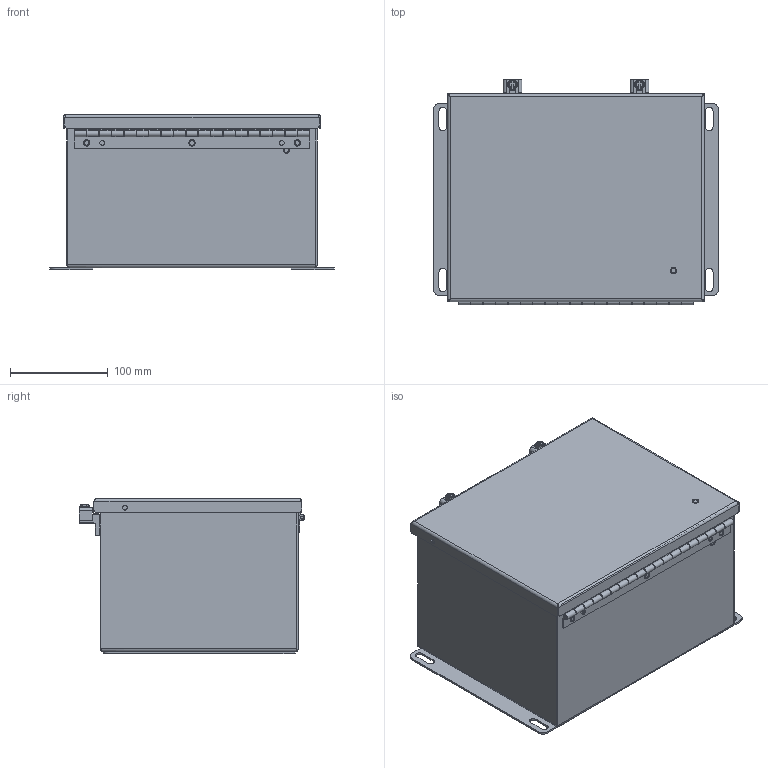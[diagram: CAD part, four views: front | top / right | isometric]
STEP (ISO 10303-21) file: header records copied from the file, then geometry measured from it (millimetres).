
FILE_DESCRIPTION((''),'2;1');
FILE_NAME('MODEL-330_ASM','2021-06-01T15:29:09',('JoshI'),('SAGINAW CONTROL & ENGINEERING'),'CREO PARAMETRIC BY PTC INC, 2017260','CREO PARAMETRIC BY PTC INC, 2017260','');
FILE_SCHEMA(('AUTOMOTIVE_DESIGN { 1 0 10303 214 1 1 1 1 }'));
Length unit declared in the file: inch
Products named in the file (22): MODEL-330-BDY; MODEL-330-DR; 100063; 100009; 125826-BASE; 125826-PEM-STUD; 125826-CLAMP; 125826-BOLT; 125826_ASM; 100897; 102162; 122255; MODEL-330-HNG-PN; MODEL-330-HNG-BX; MODEL-330-HNG-DR; 100062; MODEL-330-HNG_ASM; MODEL-330-GSKT; CH-ELJ_SUBPANEL; 102479; CH-ELJ_SUBPANEL-SUBASSEMBLY_ASM; MODEL-330_ASM
Assembly tree (36 placements, depth 3):
  MODEL-330_ASM
    MODEL-330-BDY
    MODEL-330-DR
    100063  x2
    100009  x4
    125826_ASM  x2
      125826-BASE
      125826-PEM-STUD
      125826-CLAMP
      125826-BOLT
    100897  x5
    102162  x2
    122255
    MODEL-330-HNG_ASM
      MODEL-330-HNG-PN
      MODEL-330-HNG-BX
      MODEL-330-HNG-DR
      100062  x3
    MODEL-330-GSKT
    CH-ELJ_SUBPANEL-SUBASSEMBLY_ASM
      CH-ELJ_SUBPANEL
      102479  x4
Bounding box: 292.1 x 231.25 x 159.13 mm (x, y, z)
Volume: 574857.2 mm3; surface area: 709546.9 mm2
Topology: 35 solids, 35 shells, 1807 faces, 4456 edges, 2672 vertices
Faces by surface type: plane 779, cylinder 598, bspline 214, torus 110, sphere 56, cone 50
Entity records: 56446 total; most frequent: CARTESIAN_POINT 18717, ORIENTED_EDGE 5170, DIRECTION 5065, PRESENTATION_STYLE_ASSIGNMENT 2602, STYLED_ITEM 2602, CURVE_STYLE 2585, EDGE_CURVE 2585, AXIS2_PLACEMENT_3D 1766
